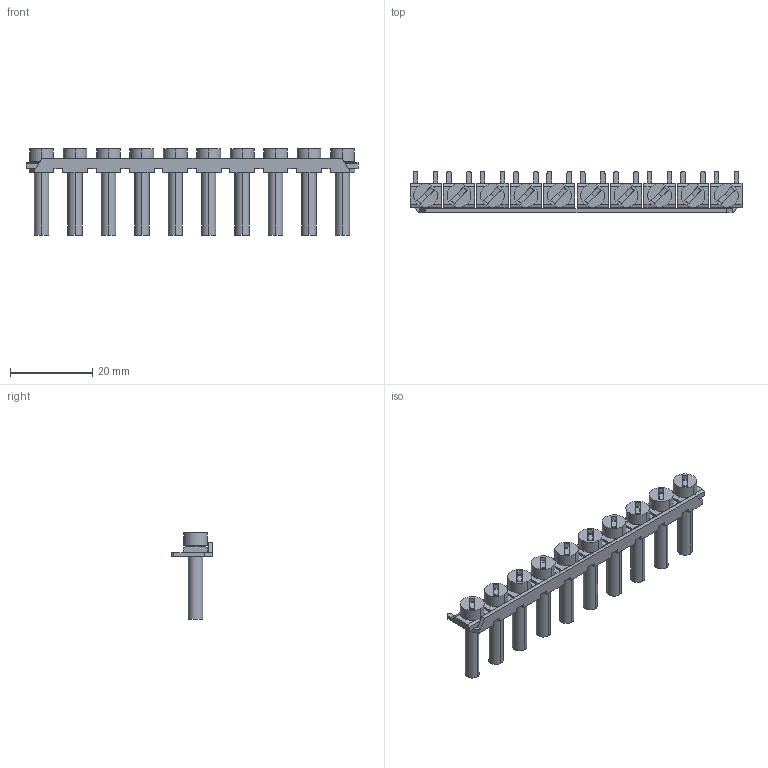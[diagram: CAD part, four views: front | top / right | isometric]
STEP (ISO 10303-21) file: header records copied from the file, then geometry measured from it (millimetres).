
FILE_DESCRIPTION(('Creo Elements/Direct Modeling STEP Export'),'2;1');
FILE_NAME('C:/Temp/JobServerData/JobServer Files/c548077b-ed66-4bba-a1c3-26913c7bf465/work/output/model.stp','2022-05-11T12:50:20',(''),(''),'Creo Elements/Direct Modeling STEP processor for AP214 (Solid Model)','Creo Elements/Direct Modeling 20.1D 10-Oct-2020 (C) Parametric Technology GmbH','');
FILE_SCHEMA(('AUTOMOTIVE_DESIGN { 1 0 10303 214 1 1 1 1 }'));
Length unit declared in the file: millimetre
Products named in the file (2): FB_10-RTK_S-select
Assembly tree (1 placements, depth 2):
  FB_10-RTK_S-select
    FB_10-RTK_S-select
Bounding box: 80.95 x 10.2 x 21 mm (x, y, z)
Volume: 3488.2 mm3; surface area: 5267.8 mm2
Topology: 1 solids, 1 shells, 396 faces, 984 edges, 630 vertices
Faces by surface type: plane 306, cylinder 90
Entity records: 13779 total; most frequent: ORIENTED_EDGE 1968, CARTESIAN_POINT 1794, DIRECTION 1596, EDGE_CURVE 984, VECTOR 732, LINE 732, VERTEX_POINT 630, EDGE_LOOP 436
